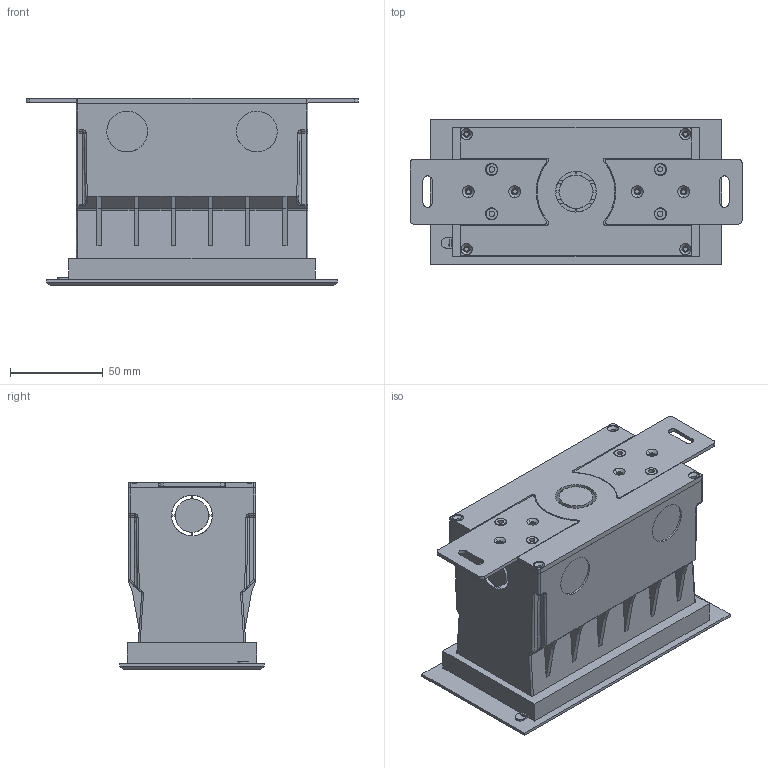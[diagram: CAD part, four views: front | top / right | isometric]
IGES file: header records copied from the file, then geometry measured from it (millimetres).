
Start section: SolidWorks IGES file using analytic representation for surfaces
Global section: file name: D:\蚚誧醴翹\Desktop\D1CA0734.IGS; native system: SolidWorks 2015; preprocessor: SolidWorks 2015; author: Administrator; date: 170829.093840; units: millimetre
Bounding box: 179.09 x 78 x 101.2 mm (x, y, z)
Volume: 276292 mm3; surface area: 223721 mm2
Topology: 17 solids, 17 shells, 3120 faces, 8646 edges, 5675 vertices
Faces by surface type: plane 1606, revolution 1084, bspline 430
